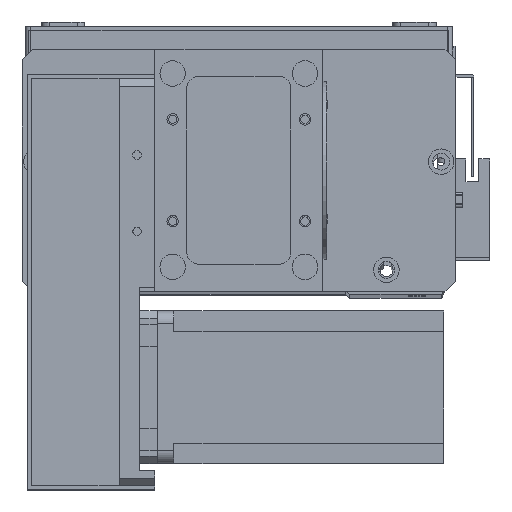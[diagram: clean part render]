
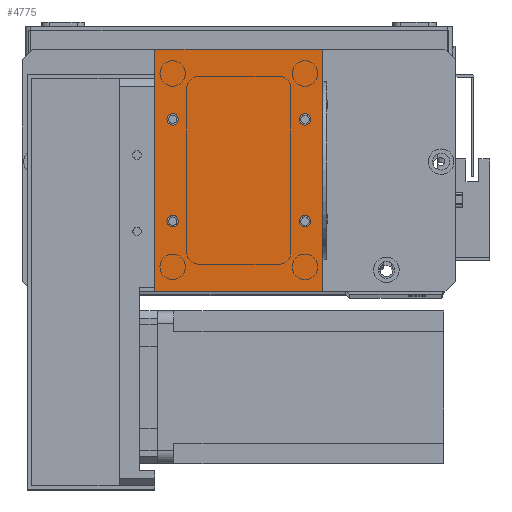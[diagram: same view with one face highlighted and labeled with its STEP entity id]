
A CAD part, top view. The second image highlights one B-rep face of the part: STEP entity #4775.
In plain terms, the highlighted planar face has unit normal (0, 0, 1).
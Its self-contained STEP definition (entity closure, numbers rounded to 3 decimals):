
#154 = EDGE_CURVE ( 'NONE', #4343, #19778, #8476, .T. ) ;
#468 = VERTEX_POINT ( 'NONE', #24729 ) ;
#918 = EDGE_CURVE ( 'NONE', #12966, #27170, #13747, .T. ) ;
#1357 = DIRECTION ( 'NONE',  ( 0., 0., 1. ) ) ;
#1502 = CARTESIAN_POINT ( 'NONE',  ( 56.75, 67.5, 2. ) ) ;
#1613 = DIRECTION ( 'NONE',  ( 0., 0., 1. ) ) ;
#2171 = VERTEX_POINT ( 'NONE', #3423 ) ;
#3423 = CARTESIAN_POINT ( 'NONE',  ( 61.25, 67.5, 2. ) ) ;
#3679 = DIRECTION ( 'NONE',  ( 1., 0., 0. ) ) ;
#4099 = CARTESIAN_POINT ( 'NONE',  ( 0., 0., 2. ) ) ;
#4343 = VERTEX_POINT ( 'NONE', #11477 ) ;
#4389 = EDGE_CURVE ( 'NONE', #19778, #4343, #11818, .T. ) ;
#4580 = CARTESIAN_POINT ( 'NONE',  ( 9.25, 27.5, 2. ) ) ;
#4775 = ADVANCED_FACE ( 'NONE', ( #28525, #16343, #23605, #22045, #15594 ), #8165, .F. ) ;
#5221 = EDGE_CURVE ( 'NONE', #11484, #468, #9098, .T. ) ;
#5455 = VECTOR ( 'NONE', #7071, 1000. ) ;
#5914 = CIRCLE ( 'NONE', #20086, 2.25 ) ;
#6157 = VERTEX_POINT ( 'NONE', #19662 ) ;
#6765 = ORIENTED_EDGE ( 'NONE', *, *, #8396, .F. ) ;
#7071 = DIRECTION ( 'NONE',  ( 0., 1., 0. ) ) ;
#8165 = PLANE ( 'NONE',  #26369 ) ;
#8273 = LINE ( 'NONE', #9029, #14724 ) ;
#8363 = CARTESIAN_POINT ( 'NONE',  ( 0., 0., 2. ) ) ;
#8396 = EDGE_CURVE ( 'NONE', #27170, #12966, #26383, .T. ) ;
#8476 = CIRCLE ( 'NONE', #14831, 2.25 ) ;
#8960 = CARTESIAN_POINT ( 'NONE',  ( 59., 67.5, 2. ) ) ;
#9029 = CARTESIAN_POINT ( 'NONE',  ( 0., 0., 2. ) ) ;
#9098 = LINE ( 'NONE', #8363, #27744 ) ;
#9239 = CARTESIAN_POINT ( 'NONE',  ( 7., 67.5, 2. ) ) ;
#9948 = CARTESIAN_POINT ( 'NONE',  ( 7., 27.5, 2. ) ) ;
#10133 = EDGE_LOOP ( 'NONE', ( #25196, #6765 ) ) ;
#10658 = AXIS2_PLACEMENT_3D ( 'NONE', #9239, #26262, #11687 ) ;
#10701 = DIRECTION ( 'NONE',  ( -1., 0., 0. ) ) ;
#10987 = LINE ( 'NONE', #24582, #12885 ) ;
#11246 = DIRECTION ( 'NONE',  ( 1., 0., 0. ) ) ;
#11409 = DIRECTION ( 'NONE',  ( 1., 0., 0. ) ) ;
#11468 = CARTESIAN_POINT ( 'NONE',  ( 7., 67.5, 2. ) ) ;
#11477 = CARTESIAN_POINT ( 'NONE',  ( 9.25, 67.5, 2. ) ) ;
#11484 = VERTEX_POINT ( 'NONE', #4099 ) ;
#11566 = ORIENTED_EDGE ( 'NONE', *, *, #21513, .F. ) ;
#11687 = DIRECTION ( 'NONE',  ( 1., 0., 0. ) ) ;
#11704 = AXIS2_PLACEMENT_3D ( 'NONE', #15957, #1357, #18426 ) ;
#11818 = CIRCLE ( 'NONE', #10658, 2.25 ) ;
#12396 = DIRECTION ( 'NONE',  ( 1., 0., 0. ) ) ;
#12885 = VECTOR ( 'NONE', #14905, 1000. ) ;
#12966 = VERTEX_POINT ( 'NONE', #4580 ) ;
#13000 = ORIENTED_EDGE ( 'NONE', *, *, #4389, .F. ) ;
#13317 = ORIENTED_EDGE ( 'NONE', *, *, #24147, .F. ) ;
#13412 = DIRECTION ( 'NONE',  ( 0., 0., 1. ) ) ;
#13474 = LINE ( 'NONE', #16740, #5455 ) ;
#13747 = CIRCLE ( 'NONE', #31511, 2.25 ) ;
#14508 = CARTESIAN_POINT ( 'NONE',  ( 4.75, 67.5, 2. ) ) ;
#14655 = ORIENTED_EDGE ( 'NONE', *, *, #16982, .F. ) ;
#14724 = VECTOR ( 'NONE', #21161, 1000. ) ;
#14831 = AXIS2_PLACEMENT_3D ( 'NONE', #11468, #18808, #11246 ) ;
#14905 = DIRECTION ( 'NONE',  ( -1., 0., 0. ) ) ;
#15517 = VERTEX_POINT ( 'NONE', #19525 ) ;
#15594 = FACE_OUTER_BOUND ( 'NONE', #25602, .T. ) ;
#15900 = VERTEX_POINT ( 'NONE', #1502 ) ;
#15941 = DIRECTION ( 'NONE',  ( 0., 0., 1. ) ) ;
#15957 = CARTESIAN_POINT ( 'NONE',  ( 59., 27.5, 2. ) ) ;
#16194 = CARTESIAN_POINT ( 'NONE',  ( 59., 27.5, 2. ) ) ;
#16343 = FACE_BOUND ( 'NONE', #24595, .T. ) ;
#16740 = CARTESIAN_POINT ( 'NONE',  ( 66., 0., 2. ) ) ;
#16982 = EDGE_CURVE ( 'NONE', #2171, #15900, #29458, .T. ) ;
#17397 = EDGE_CURVE ( 'NONE', #15517, #6157, #24504, .T. ) ;
#18426 = DIRECTION ( 'NONE',  ( 1., 0., 0. ) ) ;
#18661 = DIRECTION ( 'NONE',  ( 1., 0., 0. ) ) ;
#18808 = DIRECTION ( 'NONE',  ( 0., 0., 1. ) ) ;
#19304 = EDGE_LOOP ( 'NONE', ( #27430, #13000 ) ) ;
#19525 = CARTESIAN_POINT ( 'NONE',  ( 56.75, 27.5, 2. ) ) ;
#19662 = CARTESIAN_POINT ( 'NONE',  ( 61.25, 27.5, 2. ) ) ;
#19778 = VERTEX_POINT ( 'NONE', #14508 ) ;
#20061 = ORIENTED_EDGE ( 'NONE', *, *, #17397, .F. ) ;
#20086 = AXIS2_PLACEMENT_3D ( 'NONE', #27976, #13412, #30385 ) ;
#20102 = AXIS2_PLACEMENT_3D ( 'NONE', #9948, #26978, #12396 ) ;
#20376 = CARTESIAN_POINT ( 'NONE',  ( 0., 0., 2. ) ) ;
#20672 = ORIENTED_EDGE ( 'NONE', *, *, #5221, .T. ) ;
#21161 = DIRECTION ( 'NONE',  ( 0., -1., 0. ) ) ;
#21513 = EDGE_CURVE ( 'NONE', #6157, #15517, #28475, .T. ) ;
#21530 = VERTEX_POINT ( 'NONE', #23552 ) ;
#21753 = EDGE_LOOP ( 'NONE', ( #11566, #20061 ) ) ;
#22045 = FACE_BOUND ( 'NONE', #10133, .T. ) ;
#22351 = EDGE_CURVE ( 'NONE', #25574, #21530, #10987, .T. ) ;
#22677 = ORIENTED_EDGE ( 'NONE', *, *, #22351, .T. ) ;
#23552 = CARTESIAN_POINT ( 'NONE',  ( 0., 95., 2. ) ) ;
#23605 = FACE_BOUND ( 'NONE', #21753, .T. ) ;
#24147 = EDGE_CURVE ( 'NONE', #15900, #2171, #5914, .T. ) ;
#24504 = CIRCLE ( 'NONE', #11704, 2.25 ) ;
#24582 = CARTESIAN_POINT ( 'NONE',  ( 0., 95., 2. ) ) ;
#24595 = EDGE_LOOP ( 'NONE', ( #14655, #13317 ) ) ;
#24729 = CARTESIAN_POINT ( 'NONE',  ( 66., 0., 2. ) ) ;
#24928 = CARTESIAN_POINT ( 'NONE',  ( 66., 95., 2. ) ) ;
#25190 = ORIENTED_EDGE ( 'NONE', *, *, #25352, .T. ) ;
#25196 = ORIENTED_EDGE ( 'NONE', *, *, #918, .F. ) ;
#25282 = DIRECTION ( 'NONE',  ( 0., 0., -1. ) ) ;
#25352 = EDGE_CURVE ( 'NONE', #468, #25574, #13474, .T. ) ;
#25364 = DIRECTION ( 'NONE',  ( 1., 0., 0. ) ) ;
#25574 = VERTEX_POINT ( 'NONE', #24928 ) ;
#25602 = EDGE_LOOP ( 'NONE', ( #30768, #20672, #25190, #22677 ) ) ;
#25876 = AXIS2_PLACEMENT_3D ( 'NONE', #16194, #1613, #18661 ) ;
#25983 = DIRECTION ( 'NONE',  ( 0., 0., 1. ) ) ;
#26262 = DIRECTION ( 'NONE',  ( 0., 0., 1. ) ) ;
#26369 = AXIS2_PLACEMENT_3D ( 'NONE', #20376, #25282, #10701 ) ;
#26383 = CIRCLE ( 'NONE', #20102, 2.25 ) ;
#26978 = DIRECTION ( 'NONE',  ( 0., 0., 1. ) ) ;
#27170 = VERTEX_POINT ( 'NONE', #30977 ) ;
#27430 = ORIENTED_EDGE ( 'NONE', *, *, #154, .F. ) ;
#27744 = VECTOR ( 'NONE', #25364, 1000. ) ;
#27957 = CARTESIAN_POINT ( 'NONE',  ( 7., 27.5, 2. ) ) ;
#27976 = CARTESIAN_POINT ( 'NONE',  ( 59., 67.5, 2. ) ) ;
#28475 = CIRCLE ( 'NONE', #25876, 2.25 ) ;
#28525 = FACE_BOUND ( 'NONE', #19304, .T. ) ;
#29199 = AXIS2_PLACEMENT_3D ( 'NONE', #8960, #25983, #11409 ) ;
#29458 = CIRCLE ( 'NONE', #29199, 2.25 ) ;
#29522 = EDGE_CURVE ( 'NONE', #21530, #11484, #8273, .T. ) ;
#30385 = DIRECTION ( 'NONE',  ( 1., 0., 0. ) ) ;
#30768 = ORIENTED_EDGE ( 'NONE', *, *, #29522, .T. ) ;
#30977 = CARTESIAN_POINT ( 'NONE',  ( 4.75, 27.5, 2. ) ) ;
#31511 = AXIS2_PLACEMENT_3D ( 'NONE', #27957, #15941, #3679 ) ;
